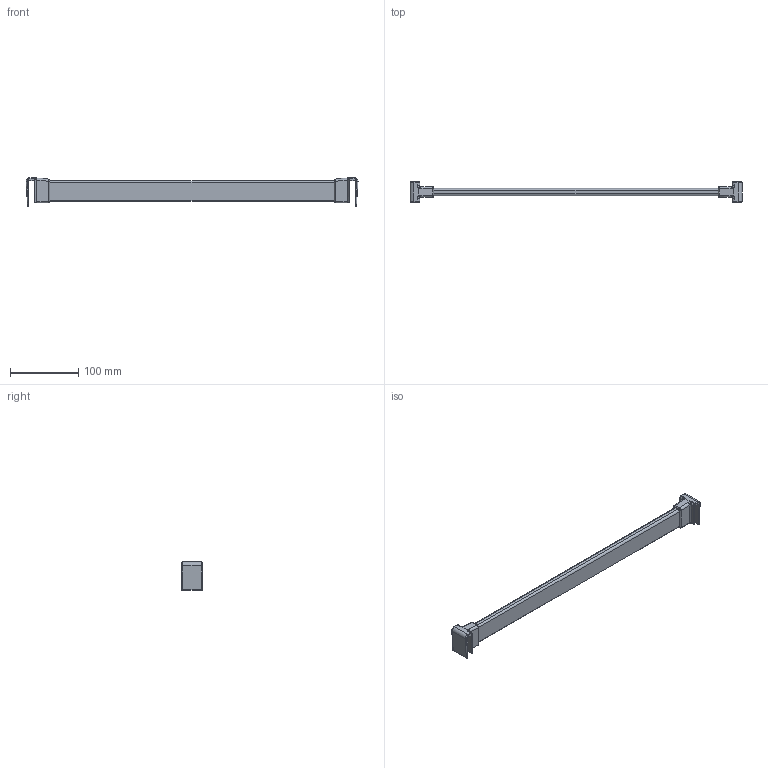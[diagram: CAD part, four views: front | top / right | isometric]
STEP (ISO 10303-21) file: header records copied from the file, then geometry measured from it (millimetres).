
FILE_DESCRIPTION (( 'STEP AP214' ), '1' );
FILE_NAME ('_Querreling_KAB-550_KS-19_P602_Glashalter.step', '2010-08-26T14:58:46', ( 'grass' ), ( '' ), 'SwSTEP 2.0', 'SolidWorks 2009', '' );
FILE_SCHEMA (( 'AUTOMOTIVE_DESIGN' ));
Length unit declared in the file: millimetre
Products named in the file (1): _Querreling_KAB-550_KS-19_P602_Glashalter
Bounding box: 484.78 x 30 x 41.5 mm (x, y, z)
Volume: 163696.1 mm3; surface area: 46135.6 mm2
Topology: 1 solids, 1 shells, 124 faces, 300 edges, 176 vertices
Faces by surface type: cylinder 58, plane 34, torus 16, bspline 12, sphere 4
Entity records: 5090 total; most frequent: CARTESIAN_POINT 2269, ORIENTED_EDGE 592, DIRECTION 590, EDGE_CURVE 296, AXIS2_PLACEMENT_3D 225, VERTEX_POINT 176, LINE 140, VECTOR 140
